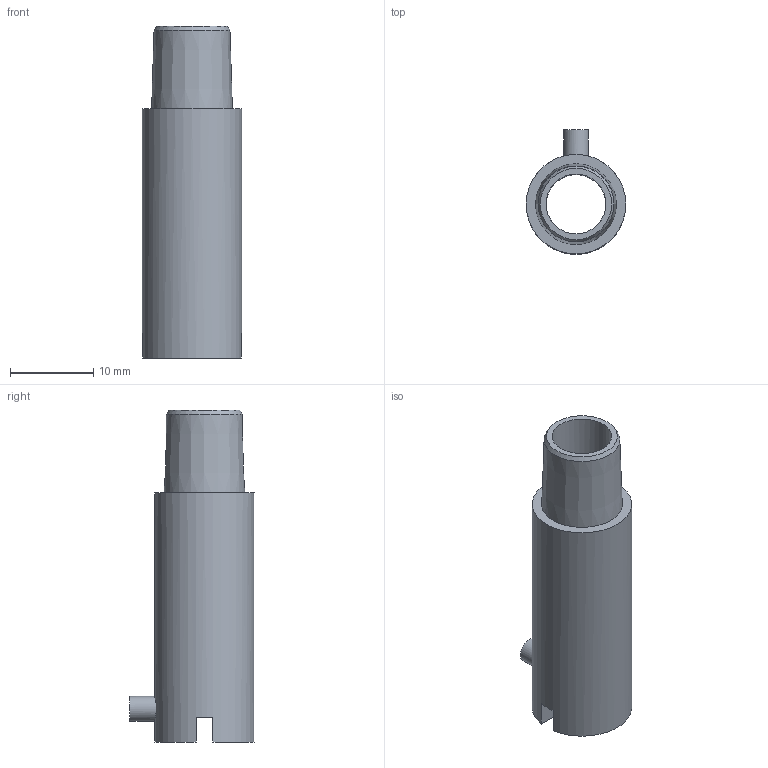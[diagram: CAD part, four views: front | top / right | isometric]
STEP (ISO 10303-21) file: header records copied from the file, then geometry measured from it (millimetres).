
FILE_DESCRIPTION (( 'STEP AP203' ), '1' );
FILE_NAME ('YIT200-3(0).STEP', '2025-08-01T06:45:04', ( '' ), ( '' ), 'SwSTEP 2.0', 'SolidWorks 2024', '' );
FILE_SCHEMA (( 'CONFIG_CONTROL_DESIGN' ));
Length unit declared in the file: millimetre
Products named in the file (1): YIT200-3(0)
Bounding box: 12 x 15 x 40 mm (x, y, z)
Volume: 2452.4 mm3; surface area: 2496.1 mm2
Topology: 1 solids, 1 shells, 16 faces, 39 edges, 26 vertices
Faces by surface type: plane 11, cylinder 3, cone 2
Full cylindrical faces by diameter (mm): 3 x1, 7.2 x1, 12 x1
Entity records: 555 total; most frequent: CARTESIAN_POINT 122, DIRECTION 78, ORIENTED_EDGE 62, AXIS2_PLACEMENT_3D 31, EDGE_CURVE 31, EDGE_LOOP 24, VERTEX_POINT 23, FACE_OUTER_BOUND 19
